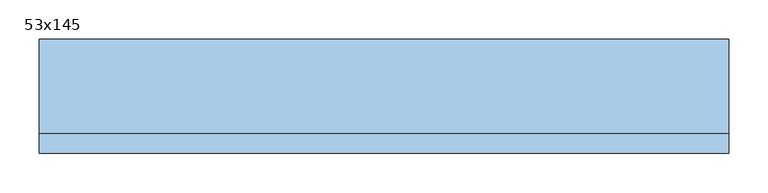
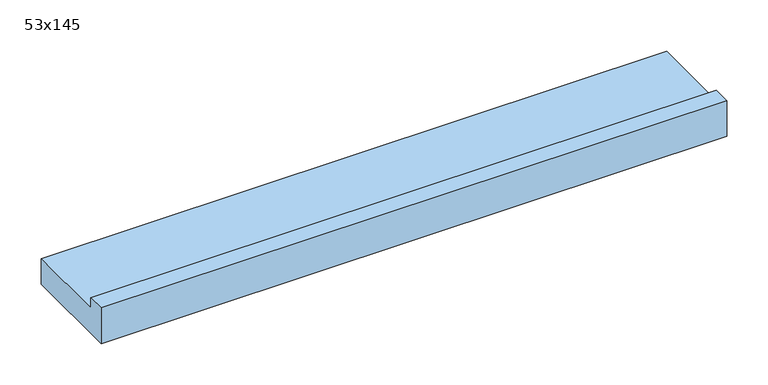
"""IFC4 building model written with IfcOpenShell, lengths in millimetres: window geometry, NLRS_30_WIN_spouwlat-onderdorpel_sh_gen_TOBA-JM : 53x145."""

from ifc_helpers import new_model, si_unit, frame, origin, place, context, project, spatial, polyline, outline, extrude, source, transform, mapped, element, save


def window_53x145_1822dd6a(model_context):
    return source(origin(), model_context, "Body", "SweptSolid", [
        extrude(outline(polyline([(25.0, 0.0), (145.0, 0.0), (145.0, -38.0), (0.0, -38.0), (0.0, 15.0), (25.0, 15.0), (25.0, 0.0)])), frame((-438.0, 0.0, 0.0), z_axis=(1.0, 0.0, 0.0), x_axis=(0.0, 1.0, 0.0)), (0.0, 0.0, 1.0), 876.0),
    ])


if __name__ == "__main__":
    model = new_model("IFC4")
    model_context = context("Model", 3, world=origin())
    ifc_project = project(units=[si_unit("LENGTHUNIT", "METRE", prefix="MILLI")], contexts=[model_context])
    site = spatial("IfcSite", under=ifc_project)
    building = spatial("IfcBuilding", under=site)
    placement = place(None, origin())
    window_53x145_shape = window_53x145_1822dd6a(model_context)
    element("IfcWindow", 1, ObjectType="NLRS_30_WIN_spouwlat-onderdorpel_sh_gen_TOBA-JM : 53x145", at=placement, inside=building, context=model_context, shape_type="MappedRepresentation", body=[
        mapped(window_53x145_shape, transform((0.0, 0.0, 0.0), x_axis=(1.0, 0.0, 0.0), y_axis=(0.0, 1.0, 0.0), z_axis=(0.0, 0.0, 1.0))),
    ])
    save(model, "model.ifc")
